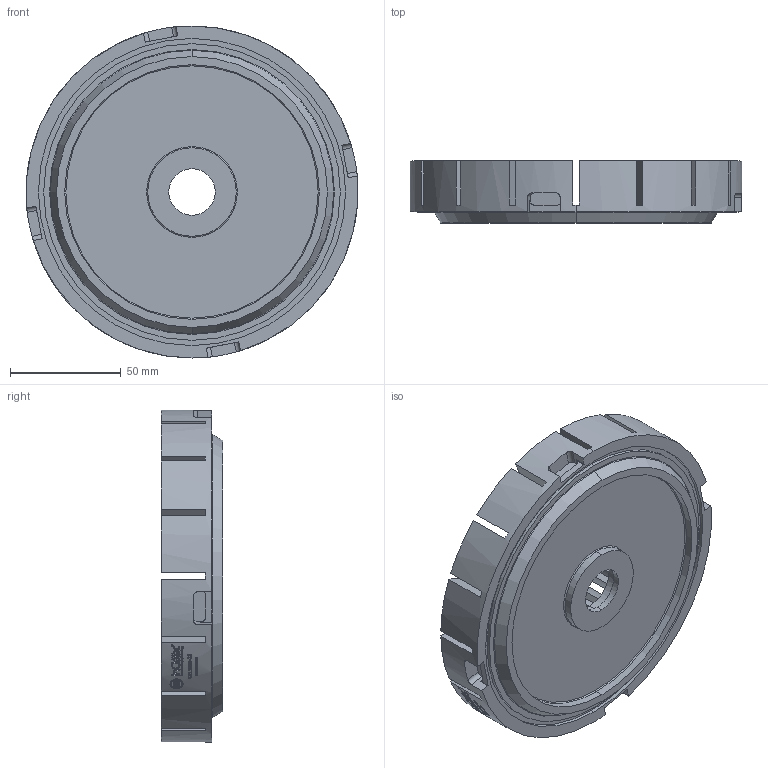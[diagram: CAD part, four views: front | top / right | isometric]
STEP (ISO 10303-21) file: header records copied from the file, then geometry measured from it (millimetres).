
FILE_DESCRIPTION (( 'STEP AP203' ), '1' );
FILE_NAME ('CR150 SS-23.STEP', '2016-06-16T06:48:16', ( '' ), ( '' ), 'SwSTEP 2.0', 'SolidWorks 2016', '' );
FILE_SCHEMA (( 'CONFIG_CONTROL_DESIGN' ));
Length unit declared in the file: millimetre
Products named in the file (1): CR150 SS-23
Bounding box: 150 x 28 x 150 mm (x, y, z)
Volume: 352571.2 mm3; surface area: 90165 mm2
Topology: 1 solids, 1 shells, 2044 faces, 5830 edges, 3885 vertices
Faces by surface type: plane 1637, cylinder 397, torus 8, cone 2
Entity records: 67392 total; most frequent: CARTESIAN_POINT 17624, ORIENTED_EDGE 11660, DIRECTION 8941, EDGE_CURVE 5830, VERTEX_POINT 3885, LINE 3663, VECTOR 3663, AXIS2_PLACEMENT_3D 2639
